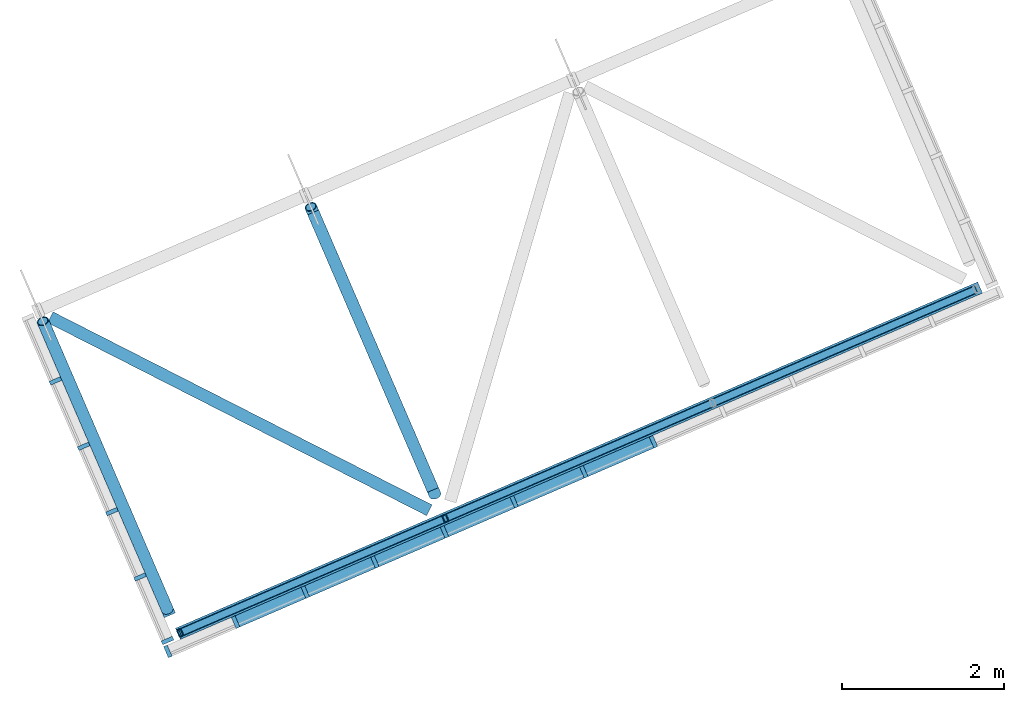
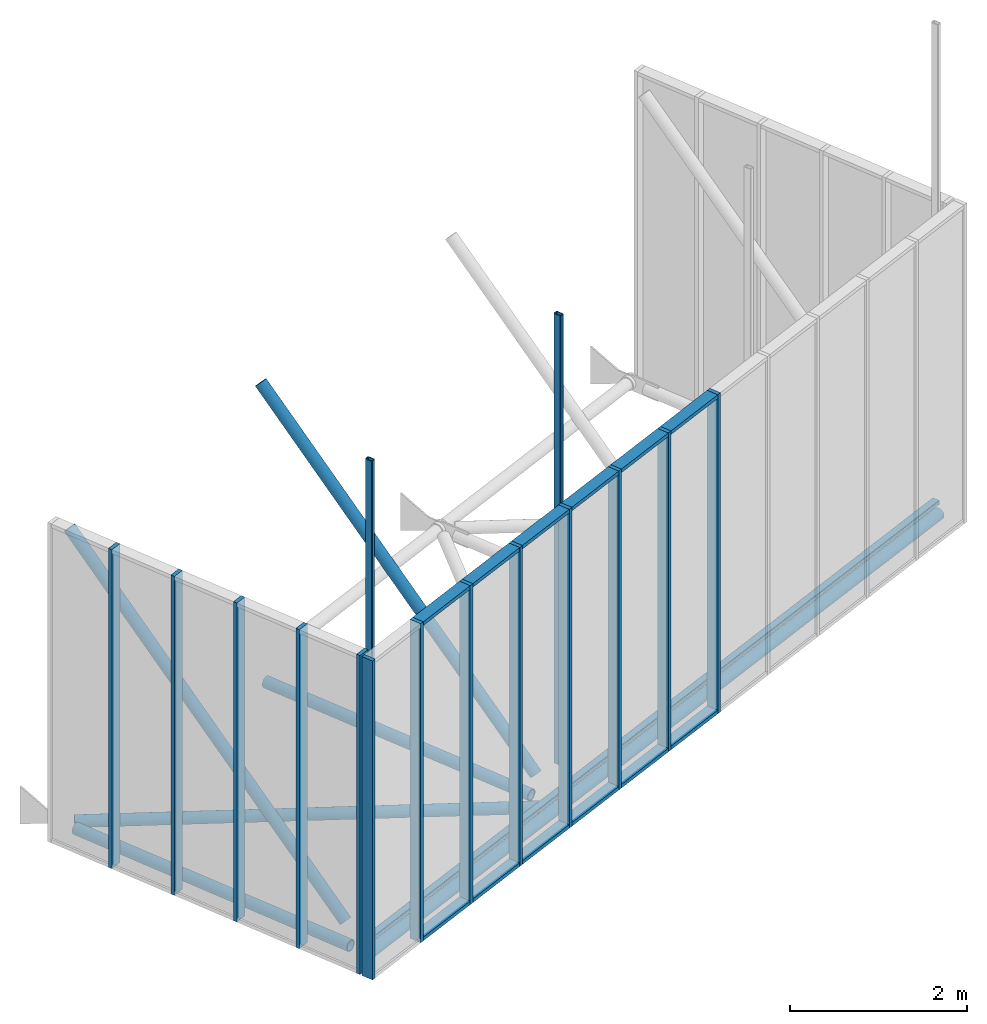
# One storey, part 1 of 5: 29 members, 5 beams, 2 elements without a shape of their own.
"""IFC4 building model written with IfcOpenShell, lengths in metres."""

from ifc_helpers import new_model, entity, si_unit, converted_unit, derived_unit, direction, frame, origin, place, context, subcontext, project, spatial, line, arc, indexed_curve, outline, extrude, source, transform, mapped, material, type_object, type_shapes, element, aggregate, save


model = new_model("IFC4")

# Units and contexts
model_context = context("Model", 3, precision=1e-05, world=origin(), true_north=direction((6.12323399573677e-17, 1.0)))
body_context = subcontext(model_context, "Body", "Model", "MODEL_VIEW")
ifc_project = project(units=[si_unit("LENGTHUNIT", "METRE"), si_unit("AREAUNIT", "SQUARE_METRE"), si_unit("VOLUMEUNIT", "CUBIC_METRE"), converted_unit("PLANEANGLEUNIT", "DEGREE", entity("IfcPlaneAngleMeasure", 0.0174532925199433), si_unit("PLANEANGLEUNIT", "RADIAN"), dimensions=[0, 0, 0, 0, 0, 0, 0]), si_unit("MASSUNIT", "GRAM", prefix="KILO"), derived_unit("MOMENTOFINERTIAUNIT", [(si_unit("LENGTHUNIT", "METRE"), 4)]), derived_unit("LINEARFORCEUNIT", [(si_unit("MASSUNIT", "GRAM", prefix="KILO"), 1), (si_unit("TIMEUNIT", "SECOND"), -2)]), derived_unit("THERMALTRANSMITTANCEUNIT", [(si_unit("MASSUNIT", "GRAM", prefix="KILO"), 1), (si_unit("THERMODYNAMICTEMPERATUREUNIT", "KELVIN"), -1), (si_unit("TIMEUNIT", "SECOND"), -3)]), derived_unit("USERDEFINED", [(si_unit("MASSUNIT", "GRAM", prefix="KILO"), 1), (si_unit("TIMEUNIT", "SECOND"), -2), (si_unit("THERMODYNAMICTEMPERATUREUNIT", "KELVIN"), -1)]), derived_unit("THERMALRESISTANCEUNIT", [(si_unit("MASSUNIT", "GRAM", prefix="KILO"), -1), (si_unit("TIMEUNIT", "SECOND"), 3), (si_unit("THERMODYNAMICTEMPERATUREUNIT", "KELVIN"), 1)])], contexts=[model_context])

# Site, building, storey
site_placement = place(None, origin())
site = spatial("IfcSite", under=ifc_project, at=site_placement, Name="Default", CompositionType="ELEMENT")
building_placement = place(site_placement, frame((4.92348780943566, -84.5603392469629, 320.975), z_axis=(0.0, 0.0, 1.0), x_axis=(-0.396377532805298, 0.918087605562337, 0.0)))
building = spatial("IfcBuilding", under=site, at=building_placement, CompositionType="ELEMENT")
storey_placement = place(building_placement, origin())
storey = spatial("IfcBuildingStorey", under=building, at=storey_placement, Name="Level 1", CompositionType="ELEMENT", Elevation=0.0)

# Beams
ifc_material_1 = material(Name="Acero, 45-345", Category="Metal")
beam_type_1 = type_object("IfcBeamType", Name="M_HSS-Tubo estructural redondo:HSS190.5X12.7", PredefinedType="BEAM", material=ifc_material_1)
shared_shape_1 = source(origin(), body_context, "Body", "SweptSolid", [
    extrude(outline(indexed_curve([(-0.0750000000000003, 1.20590175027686e-16), (0.0, -0.0750000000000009), (0.0750000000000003, -1.20590175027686e-16), (0.0, 0.0750000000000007)], segments=[arc(1, 2, 3), arc(3, 4, 1)], self_intersect=False), holes=[indexed_curve([(0.0632000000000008, -4.02405891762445e-16), (1.08286712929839e-15, -0.0632000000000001), (-0.0631999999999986, 4.99319430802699e-16), (2.16573425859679e-15, 0.0631999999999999)], segments=[arc(1, 2, 3), arc(3, 4, 1)], self_intersect=False)]), frame((-1.82700463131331, 5.71117704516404, 0.0), z_axis=(1.0, 0.0, 0.0), x_axis=(0.0, -1.0, 0.0)), (0.0, 0.0, 1.0), 3.8701652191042),
])
type_shapes(beam_type_1, [shared_shape_1])
beam_1_placement = place(storey_placement, origin())
element("IfcBeam", 1, at=beam_1_placement, inside=storey, type_object=beam_type_1, Name="M_HSS-Tubo estructural redondo:HSS190.5X12.7", ObjectType="M_HSS-Tubo estructural redondo:HSS190.5X12.7", PredefinedType="BEAM", context=body_context, shape_type="MappedRepresentation", body=[
    mapped(shared_shape_1, transform((0.0, 0.0, 0.0), scale=1.0)),
])
beam_type_2 = type_object("IfcBeamType", Name="M_HSS-Tubo estructural redondo:HSS190.5X12.7", PredefinedType="BEAM", material=ifc_material_1)
shared_shape_2 = source(origin(), body_context, "Body", "SweptSolid", [
    extrude(outline(indexed_curve([(-0.0750000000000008, 1.20590175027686e-16), (-2.70716782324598e-16, -0.0750000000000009), (0.0750000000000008, -1.20590175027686e-16), (0.0, 0.0750000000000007)], segments=[arc(1, 2, 3), arc(3, 4, 1)], self_intersect=False), holes=[indexed_curve([(0.0632, -4.02405891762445e-16), (0.0, -0.0632000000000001), (-0.0632000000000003, 4.99319430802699e-16), (5.41433564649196e-16, 0.0631999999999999)], segments=[arc(1, 2, 3), arc(3, 4, 1)], self_intersect=False)]), frame((-2.07683941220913, -5.08882295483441, 0.0), z_axis=(0.0, 1.0, 0.0), x_axis=(1.0, 0.0, 0.0)), (0.0, 0.0, 1.0), 10.8000596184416),
])
type_shapes(beam_type_2, [shared_shape_2])
beam_2_placement = place(storey_placement, origin())
element("IfcBeam", 2, at=beam_2_placement, inside=storey, type_object=beam_type_2, Name="M_HSS-Tubo estructural redondo:HSS190.5X12.7", ObjectType="M_HSS-Tubo estructural redondo:HSS190.5X12.7", PredefinedType="BEAM", context=body_context, shape_type="MappedRepresentation", body=[
    mapped(shared_shape_2, transform((0.0, 0.0, 0.0), scale=1.0)),
])
beam_type_3 = type_object("IfcBeamType", Name="M_HSS-Tubo estructural redondo:HSS190.5X12.7", PredefinedType="BEAM", material=ifc_material_1)
shared_shape_3 = source(origin(), body_context, "Body", "SweptSolid", [
    extrude(outline(indexed_curve([(-3.58329145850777e-16, -0.0750000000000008), (0.0750000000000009, -4.16992503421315e-16), (3.58329145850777e-16, 0.0750000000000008), (-0.0750000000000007, 3.10001975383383e-16)], segments=[arc(1, 2, 3), arc(3, 4, 1)], self_intersect=False), holes=[indexed_curve([(-8.85224749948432e-16, 0.0632), (0.0632000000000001, 8.91163908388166e-16), (1.04133678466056e-16, -0.0632), (-0.0631999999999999, -2.38953552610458e-16)], segments=[arc(1, 2, 3), arc(3, 4, 1)], self_intersect=False)]), frame((-2.65291717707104, 0.0, 0.0), z_axis=(1.0, 0.0, 0.0), x_axis=(0.0, 0.0, -1.0)), (0.0, 0.0, 1.0), 5.25744912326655),
])
type_shapes(beam_type_3, [shared_shape_3])
beam_3_placement = place(storey_placement, frame((0.0981605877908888, 3.91428902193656, 0.0), z_axis=(0.0, 0.0, 1.0), x_axis=(-0.769853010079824, -0.638221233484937, 0.0)))
element("IfcBeam", 3, at=beam_3_placement, inside=storey, type_object=beam_type_3, Name="M_HSS-Tubo estructural redondo:HSS190.5X12.7", ObjectType="M_HSS-Tubo estructural redondo:HSS190.5X12.7", PredefinedType="BEAM", context=body_context, shape_type="MappedRepresentation", body=[
    mapped(shared_shape_3, transform((0.0, 0.0, 0.0), scale=1.0)),
])
beam_type_4 = type_object("IfcBeamType", Name="M_HSS-Tubo estructural redondo:HSS190.5X12.7", PredefinedType="BEAM", material=ifc_material_1)
shared_shape_4 = source(origin(), body_context, "Body", "SweptSolid", [
    extrude(outline(indexed_curve([(-0.0750000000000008, 1.20590175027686e-16), (-2.70716782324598e-16, -0.0750000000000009), (0.0750000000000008, -1.20590175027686e-16), (0.0, 0.0750000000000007)], segments=[arc(1, 2, 3), arc(3, 4, 1)], self_intersect=False), holes=[indexed_curve([(0.0632, -4.02405891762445e-16), (0.0, -0.0632000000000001), (-0.0632000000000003, 4.99319430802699e-16), (5.41433564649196e-16, 0.0631999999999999)], segments=[arc(1, 2, 3), arc(3, 4, 1)], self_intersect=False)]), frame((-1.69402193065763, 2.11117704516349, 0.0), z_axis=(1.0, 0.0, 0.0), x_axis=(0.0, -1.0, 0.0)), (0.0, 0.0, 1.0), 3.73718251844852),
])
type_shapes(beam_type_4, [shared_shape_4])
beam_4_placement = place(storey_placement, origin())
element("IfcBeam", 4, at=beam_4_placement, inside=storey, type_object=beam_type_4, Name="M_HSS-Tubo estructural redondo:HSS190.5X12.7", ObjectType="M_HSS-Tubo estructural redondo:HSS190.5X12.7", PredefinedType="BEAM", context=body_context, shape_type="MappedRepresentation", body=[
    mapped(shared_shape_4, transform((0.0, 0.0, 0.0), scale=1.0)),
])

# Members
member_type_1 = type_object("IfcMemberType", Name="M_HSS-Tubo estructural redondo:HSS190.5X12.7", PredefinedType="BRACE", material=ifc_material_1)
shared_shape_5 = source(origin(), body_context, "Body", "SweptSolid", [
    extrude(outline(indexed_curve([(-0.0750000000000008, 1.20590175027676e-16), (-3.45786696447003e-16, -0.0750000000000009), (0.0750000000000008, -1.20590175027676e-16), (1.22223330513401e-16, 0.0750000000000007)], segments=[arc(1, 2, 3), arc(3, 4, 1)], self_intersect=False), holes=[indexed_curve([(0.0632, 1.07782022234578e-15), (1.13989196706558e-15, -0.0632000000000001), (-0.0632, -2.96728571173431e-16), (-4.59615173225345e-16, 0.0631999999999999)], segments=[arc(1, 2, 3), arc(3, 4, 1)], self_intersect=False)]), frame((-2.48607915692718, 0.0, 0.0), z_axis=(1.0, 0.0, 0.0), x_axis=(0.0, 1.0, 0.0)), (0.0, 0.0, 1.0), 5.41876309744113),
])
type_shapes(member_type_1, [shared_shape_5])
member_1_placement = place(storey_placement, frame((0.0209177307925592, 2.11117704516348, 2.0494023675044), z_axis=(-0.69881460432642, 0.0, 0.715302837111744), x_axis=(0.715302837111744, 0.0, 0.69881460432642)))
element("IfcMember", 5, at=member_1_placement, inside=storey, type_object=member_type_1, Name="M_HSS-Tubo estructural redondo:HSS190.5X12.7", ObjectType="M_HSS-Tubo estructural redondo:HSS190.5X12.7", PredefinedType="BRACE", context=body_context, shape_type="MappedRepresentation", body=[
    mapped(shared_shape_5, transform((0.0, 0.0, 0.0), scale=1.0)),
])
member_type_2 = type_object("IfcMemberType", Name="M_HSS-Tubo estructural redondo:HSS190.5X12.7", PredefinedType="BRACE", material=ifc_material_1)
shared_shape_6 = source(origin(), body_context, "Body", "SweptSolid", [
    extrude(outline(indexed_curve([(-0.0750000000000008, 1.20590175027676e-16), (-3.45786696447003e-16, -0.0750000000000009), (0.0750000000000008, -1.20590175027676e-16), (1.22223330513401e-16, 0.0750000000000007)], segments=[arc(1, 2, 3), arc(3, 4, 1)], self_intersect=False), holes=[indexed_curve([(0.0632, 1.07782022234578e-15), (1.13989196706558e-15, -0.0632000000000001), (-0.0632, -2.96728571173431e-16), (-4.59615173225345e-16, 0.0631999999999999)], segments=[arc(1, 2, 3), arc(3, 4, 1)], self_intersect=False)]), frame((-2.49744570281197, 0.0, 0.0), z_axis=(1.0, 0.0, 0.0), x_axis=(0.0, 1.0, 0.0)), (0.0, 0.0, 1.0), 5.43744570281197),
])
type_shapes(member_type_2, [shared_shape_6])
member_2_placement = place(storey_placement, frame((0.0318183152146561, 5.71117704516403, 2.05639691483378), z_axis=(-0.699454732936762, 0.0, 0.714676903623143), x_axis=(0.714676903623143, 0.0, 0.699454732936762)))
element("IfcMember", 6, at=member_2_placement, inside=storey, type_object=member_type_2, Name="M_HSS-Tubo estructural redondo:HSS190.5X12.7", ObjectType="M_HSS-Tubo estructural redondo:HSS190.5X12.7", PredefinedType="BRACE", context=body_context, shape_type="MappedRepresentation", body=[
    mapped(shared_shape_6, transform((0.0, 0.0, 0.0), scale=1.0)),
])
member_type_3 = type_object("IfcMemberType", Name="M_HSS Cuadrado:10x6", PredefinedType="BRACE", material=ifc_material_1)
shared_shape_7 = source(origin(), body_context, "Body", "SweptSolid", [
    extrude(outline(indexed_curve([(-0.017, -0.0500000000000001), (0.0169999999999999, -0.0500000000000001), (0.026192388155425, -0.0461923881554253), (0.03, -0.0370000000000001), (0.03, 0.0370000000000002), (0.026192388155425, 0.0461923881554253), (0.017, 0.0500000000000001), (-0.017, 0.0500000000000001), (-0.0261923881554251, 0.0461923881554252), (-0.03, 0.0370000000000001), (-0.03, -0.0370000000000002), (-0.026192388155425, -0.0461923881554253)], segments=[line(1, 2), arc(2, 3, 4), line(4, 5), arc(5, 6, 7), line(7, 8), arc(8, 9, 10), line(10, 11), arc(11, 12, 1)], self_intersect=False), holes=[indexed_curve([(-0.0204700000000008, 0.0369999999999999), (-0.0194536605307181, 0.0394536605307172), (-0.0170000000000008, 0.0404699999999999), (0.0169999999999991, 0.0404699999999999), (0.0194536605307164, 0.0394536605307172), (0.0204699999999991, 0.0369999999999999), (0.0204699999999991, -0.0369999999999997), (0.0194536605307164, -0.039453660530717), (0.0169999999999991, -0.0404699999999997), (-0.0170000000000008, -0.0404699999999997), (-0.0194536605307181, -0.039453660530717), (-0.0204700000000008, -0.0369999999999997)], segments=[arc(1, 2, 3), line(3, 4), arc(4, 5, 6), line(6, 7), arc(7, 8, 9), line(9, 10), arc(10, 11, 12), line(12, 1)], self_intersect=False)]), frame((-3.2798, 0.0, 0.0), z_axis=(1.0, 0.0, 0.0), x_axis=(0.0, 0.0, -1.0)), (0.0, 0.0, 1.0), 6.5596),
])
type_shapes(member_type_3, [shared_shape_7])
member_3_placement = place(storey_placement, frame((-2.07683941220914, 5.68123666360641, 3.5224999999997), z_axis=(0.0, 1.0, 0.0), x_axis=(0.0, 0.0, -1.0)))
element("IfcMember", 7, at=member_3_placement, inside=storey, type_object=member_type_3, Name="M_HSS Cuadrado:10x6", ObjectType="M_HSS Cuadrado:10x6", PredefinedType="BRACE", context=body_context, shape_type="MappedRepresentation", body=[
    mapped(shared_shape_7, transform((0.0, 0.0, 0.0), scale=1.0)),
])
member_type_4 = type_object("IfcMemberType", Name="M_HSS Cuadrado:10x6", PredefinedType="BRACE", material=ifc_material_1)
shared_shape_8 = source(origin(), body_context, "Body", "SweptSolid", [
    extrude(outline(indexed_curve([(-0.017, -0.0500000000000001), (0.0169999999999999, -0.0500000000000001), (0.026192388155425, -0.0461923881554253), (0.03, -0.0370000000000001), (0.03, 0.0370000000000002), (0.026192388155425, 0.0461923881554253), (0.017, 0.0500000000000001), (-0.017, 0.0500000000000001), (-0.0261923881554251, 0.0461923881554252), (-0.03, 0.0370000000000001), (-0.03, -0.0370000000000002), (-0.026192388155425, -0.0461923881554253)], segments=[line(1, 2), arc(2, 3, 4), line(4, 5), arc(5, 6, 7), line(7, 8), arc(8, 9, 10), line(10, 11), arc(11, 12, 1)], self_intersect=False), holes=[indexed_curve([(-0.0204700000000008, 0.0369999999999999), (-0.0194536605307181, 0.0394536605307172), (-0.0170000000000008, 0.0404699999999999), (0.0169999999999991, 0.0404699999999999), (0.0194536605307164, 0.0394536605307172), (0.0204699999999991, 0.0369999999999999), (0.0204699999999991, -0.0369999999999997), (0.0194536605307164, -0.039453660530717), (0.0169999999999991, -0.0404699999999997), (-0.0170000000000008, -0.0404699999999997), (-0.0194536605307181, -0.039453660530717), (-0.0204700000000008, -0.0369999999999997)], segments=[arc(1, 2, 3), line(3, 4), arc(4, 5, 6), line(6, 7), arc(7, 8, 9), line(9, 10), arc(10, 11, 12), line(12, 1)], self_intersect=False)]), frame((-3.0798, 0.0, 0.0), z_axis=(1.0, 0.0, 0.0), x_axis=(0.0, 0.0, -1.0)), (0.0, 0.0, 1.0), 6.2023),
])
type_shapes(member_type_4, [shared_shape_8])
member_4_placement = place(storey_placement, frame((-2.07683941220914, 2.1111770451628, 3.72249999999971), z_axis=(0.0, 1.0, 0.0), x_axis=(0.0, 0.0, -1.0)))
element("IfcMember", 8, at=member_4_placement, inside=storey, type_object=member_type_4, Name="M_HSS Cuadrado:10x6", ObjectType="M_HSS Cuadrado:10x6", PredefinedType="BRACE", context=body_context, shape_type="MappedRepresentation", body=[
    mapped(shared_shape_8, transform((0.0, 0.0, 0.0), scale=1.0)),
])

# Beam
beam_type_5 = type_object("IfcBeamType", Name="M_HSS Cuadrado:10x6", PredefinedType="BEAM", material=ifc_material_1)
shared_shape_9 = source(origin(), body_context, "Body", "SweptSolid", [
    extrude(outline(indexed_curve([(-0.017, -0.0500000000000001), (0.0169999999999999, -0.0500000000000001), (0.026192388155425, -0.0461923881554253), (0.03, -0.0370000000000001), (0.03, 0.0370000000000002), (0.026192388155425, 0.0461923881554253), (0.017, 0.0500000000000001), (-0.017, 0.0500000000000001), (-0.0261923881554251, 0.0461923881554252), (-0.03, 0.0370000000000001), (-0.03, -0.0370000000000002), (-0.026192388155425, -0.0461923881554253)], segments=[line(1, 2), arc(2, 3, 4), line(4, 5), arc(5, 6, 7), line(7, 8), arc(8, 9, 10), line(10, 11), arc(11, 12, 1)], self_intersect=False), holes=[indexed_curve([(-0.0204700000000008, 0.0369999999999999), (-0.0194536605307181, 0.0394536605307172), (-0.0170000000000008, 0.0404699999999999), (0.0169999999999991, 0.0404699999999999), (0.0194536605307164, 0.0394536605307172), (0.0204699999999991, 0.0369999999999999), (0.0204699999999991, -0.0369999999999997), (0.0194536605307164, -0.039453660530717), (0.0169999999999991, -0.0404699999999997), (-0.0170000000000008, -0.0404699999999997), (-0.0194536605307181, -0.039453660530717), (-0.0204700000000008, -0.0369999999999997)], segments=[arc(1, 2, 3), line(3, 4), arc(4, 5, 6), line(6, 7), arc(7, 8, 9), line(9, 10), arc(10, 11, 12), line(12, 1)], self_intersect=False)]), frame((-5.3575, 0.0, 0.0), z_axis=(1.0, 0.0, 0.0), x_axis=(0.0, 0.0, -1.0)), (0.0, 0.0, 1.0), 10.715),
])
type_shapes(beam_type_5, [shared_shape_9])
beam_5_placement = place(storey_placement, frame((-2.07683941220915, 0.323736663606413, 0.199999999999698), z_axis=(0.0, 0.0, 1.0), x_axis=(0.0, 1.0, 0.0)))
element("IfcBeam", 9, at=beam_5_placement, inside=storey, type_object=beam_type_5, Name="M_HSS Cuadrado:10x6", ObjectType="M_HSS Cuadrado:10x6", PredefinedType="BEAM", context=body_context, shape_type="MappedRepresentation", body=[
    mapped(shared_shape_9, transform((0.0, 0.0, 0.0), scale=1.0)),
])

# Curtain wall, members
curtain_wall_type = type_object("IfcCurtainWallType", Name="Curtain Wall:MC1", PredefinedType="NOTDEFINED")
curtain_wall_1_placement = place(storey_placement, origin())
curtain_wall_1 = element("IfcCurtainWall", 10, at=curtain_wall_1_placement, inside=storey, type_object=curtain_wall_type, Name="Curtain Wall:MC1", ObjectType="Curtain Wall:MC1", PredefinedType="NOTDEFINED")
ifc_material_2 = material(Name="Aluminum", Category="Metal")
member_type_5 = type_object("IfcMemberType", Name="Rectangular Mullion:50mm x 150mm", PredefinedType="MULLION", material=ifc_material_2)
shared_shape_10 = source(origin(), body_context, "Body", "SweptSolid", [
    extrude(outline(indexed_curve([(-0.025, -0.075), (0.025, -0.075), (0.025, 0.075), (-0.025, 0.075), (-0.025, -0.075)], self_intersect=False)), frame((-0.025, 0.0, -4.4), z_axis=(0.0, 0.0, 1.0), x_axis=(-1.0, 0.0, 0.0)), (0.0, 0.0, 1.0), 4.4),
])
type_shapes(member_type_5, [shared_shape_10])
member_5_placement = place(curtain_wall_1_placement, frame((-2.12683941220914, 5.86117704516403, 4.25), z_axis=(0.0, 0.0, 1.0), x_axis=(-1.0, 0.0, 0.0)))
member_5 = element("IfcMember", 11, at=member_5_placement, type_object=member_type_5, material=ifc_material_2, Name="Rectangular Mullion:50mm x 150mm", ObjectType="Rectangular Mullion:50mm x 150mm", PredefinedType="MULLION", context=body_context, shape_type="MappedRepresentation", body=[
    mapped(shared_shape_10, transform((0.0, 0.0, 0.0), scale=1.0)),
])
member_type_6 = type_object("IfcMemberType", Name="Rectangular Mullion:50mm x 150mm", PredefinedType="MULLION", material=ifc_material_2)
shared_shape_11 = source(origin(), body_context, "Body", "SweptSolid", [
    extrude(outline(indexed_curve([(-0.025, -0.075), (0.025, -0.075), (0.025, 0.075), (-0.025, 0.075), (-0.025, -0.075)], self_intersect=False)), frame((0.0, 0.0, -4.4), z_axis=(0.0, 0.0, 1.0), x_axis=(-1.0, 0.0, 0.0)), (0.0, 0.0, 1.0), 4.4),
])
type_shapes(member_type_6, [shared_shape_11])
member_6_placement = place(curtain_wall_1_placement, frame((-1.24683941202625, 5.86117704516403, -0.15), z_axis=(0.0, 0.0, -1.0), x_axis=(1.0, 0.0, 0.0)))
member_6 = element("IfcMember", 12, at=member_6_placement, type_object=member_type_6, material=ifc_material_2, Name="Rectangular Mullion:50mm x 150mm", ObjectType="Rectangular Mullion:50mm x 150mm", PredefinedType="MULLION", context=body_context, shape_type="MappedRepresentation", body=[
    mapped(shared_shape_11, transform((0.0, 0.0, 0.0), scale=1.0)),
])
member_7_placement = place(curtain_wall_1_placement, frame((-0.366839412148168, 5.86117704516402, -0.15), z_axis=(0.0, 0.0, -1.0), x_axis=(1.0, 0.0, 0.0)))
member_7 = element("IfcMember", 13, at=member_7_placement, type_object=member_type_6, material=ifc_material_2, Name="Rectangular Mullion:50mm x 150mm", ObjectType="Rectangular Mullion:50mm x 150mm", PredefinedType="MULLION", context=body_context, shape_type="MappedRepresentation", body=[
    mapped(shared_shape_11, transform((0.0, 0.0, 0.0), scale=1.0)),
])
member_8_placement = place(curtain_wall_1_placement, frame((0.513160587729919, 5.86117704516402, -0.15), z_axis=(0.0, 0.0, -1.0), x_axis=(1.0, 0.0, 0.0)))
member_8 = element("IfcMember", 14, at=member_8_placement, type_object=member_type_6, material=ifc_material_2, Name="Rectangular Mullion:50mm x 150mm", ObjectType="Rectangular Mullion:50mm x 150mm", PredefinedType="MULLION", context=body_context, shape_type="MappedRepresentation", body=[
    mapped(shared_shape_11, transform((0.0, 0.0, 0.0), scale=1.0)),
])
member_9_placement = place(curtain_wall_1_placement, frame((1.39316058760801, 5.86117704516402, -0.15), z_axis=(0.0, 0.0, -1.0), x_axis=(1.0, 0.0, 0.0)))
member_9 = element("IfcMember", 15, at=member_9_placement, type_object=member_type_6, material=ifc_material_2, Name="Rectangular Mullion:50mm x 150mm", ObjectType="Rectangular Mullion:50mm x 150mm", PredefinedType="MULLION", context=body_context, shape_type="MappedRepresentation", body=[
    mapped(shared_shape_11, transform((0.0, 0.0, 0.0), scale=1.0)),
])
aggregate(curtain_wall_1, [member_5, member_6, member_7, member_8, member_9])

curtain_wall_2_placement = place(storey_placement, origin())
curtain_wall_2 = element("IfcCurtainWall", 16, at=curtain_wall_2_placement, inside=storey, type_object=curtain_wall_type, Name="Curtain Wall:MC1", ObjectType="Curtain Wall:MC1", PredefinedType="NOTDEFINED")
member_type_7 = type_object("IfcMemberType", Name="Rectangular Mullion:50mm x 150mm", PredefinedType="MULLION", material=ifc_material_2)
shared_shape_12 = source(origin(), body_context, "Body", "SweptSolid", [
    extrude(outline(indexed_curve([(-0.025, -0.075), (0.025, -0.075), (0.025, 0.075), (-0.025, 0.075), (-0.025, -0.075)], self_intersect=False)), frame((-0.025, 0.0, -4.4), z_axis=(0.0, 0.0, 1.0), x_axis=(-1.0, 0.0, 0.0)), (0.0, 0.0, 1.0), 4.4),
])
type_shapes(member_type_7, [shared_shape_12])
member_10_placement = place(curtain_wall_2_placement, frame((-2.22683941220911, 5.93617704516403, 4.25), z_axis=(0.0, 0.0, 1.0), x_axis=(0.0, 1.0, 0.0)))
member_10 = element("IfcMember", 17, at=member_10_placement, type_object=member_type_7, material=ifc_material_2, Name="Rectangular Mullion:50mm x 150mm", ObjectType="Rectangular Mullion:50mm x 150mm", PredefinedType="MULLION", context=body_context, shape_type="MappedRepresentation", body=[
    mapped(shared_shape_12, transform((0.0, 0.0, 0.0), scale=1.0)),
])
member_type_8 = type_object("IfcMemberType", Name="Rectangular Mullion:50mm x 150mm", PredefinedType="MULLION", material=ifc_material_2)
shared_shape_13 = source(origin(), body_context, "Body", "SweptSolid", [
    extrude(outline(indexed_curve([(-0.025, -0.075), (0.025, -0.075), (0.025, 0.075), (-0.025, 0.075), (-0.025, -0.075)], self_intersect=False)), frame((-0.025, 0.0, -0.887499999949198), z_axis=(0.0, 0.0, 1.0), x_axis=(-1.0, 0.0, 0.0)), (0.0, 0.0, 1.0), 0.887499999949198),
])
type_shapes(member_type_8, [shared_shape_13])
member_11_placement = place(curtain_wall_2_placement, frame((-2.22683941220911, 4.08617704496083, 4.25), z_axis=(0.0, -1.0, 0.0), x_axis=(0.0, 0.0, 1.0)))
member_11 = element("IfcMember", 18, at=member_11_placement, type_object=member_type_8, material=ifc_material_2, Name="Rectangular Mullion:50mm x 150mm", ObjectType="Rectangular Mullion:50mm x 150mm", PredefinedType="MULLION", context=body_context, shape_type="MappedRepresentation", body=[
    mapped(shared_shape_13, transform((0.0, 0.0, 0.0), scale=1.0)),
])
member_12_placement = place(curtain_wall_2_placement, frame((-2.22683941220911, 3.14867704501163, 4.25), z_axis=(0.0, -1.0, 0.0), x_axis=(0.0, 0.0, 1.0)))
member_12 = element("IfcMember", 19, at=member_12_placement, type_object=member_type_8, material=ifc_material_2, Name="Rectangular Mullion:50mm x 150mm", ObjectType="Rectangular Mullion:50mm x 150mm", PredefinedType="MULLION", context=body_context, shape_type="MappedRepresentation", body=[
    mapped(shared_shape_13, transform((0.0, 0.0, 0.0), scale=1.0)),
])
member_13_placement = place(curtain_wall_2_placement, frame((-2.22683941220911, 2.21117704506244, 4.25), z_axis=(0.0, -1.0, 0.0), x_axis=(0.0, 0.0, 1.0)))
member_13 = element("IfcMember", 20, at=member_13_placement, type_object=member_type_8, material=ifc_material_2, Name="Rectangular Mullion:50mm x 150mm", ObjectType="Rectangular Mullion:50mm x 150mm", PredefinedType="MULLION", context=body_context, shape_type="MappedRepresentation", body=[
    mapped(shared_shape_13, transform((0.0, 0.0, 0.0), scale=1.0)),
])
member_14_placement = place(curtain_wall_2_placement, frame((-2.22683941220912, 1.27367704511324, 4.25), z_axis=(0.0, -1.0, 0.0), x_axis=(0.0, 0.0, 1.0)))
member_14 = element("IfcMember", 21, at=member_14_placement, type_object=member_type_8, material=ifc_material_2, Name="Rectangular Mullion:50mm x 150mm", ObjectType="Rectangular Mullion:50mm x 150mm", PredefinedType="MULLION", context=body_context, shape_type="MappedRepresentation", body=[
    mapped(shared_shape_13, transform((0.0, 0.0, 0.0), scale=1.0)),
])
member_15_placement = place(curtain_wall_2_placement, frame((-2.22683941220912, 0.33617704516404, 4.25), z_axis=(0.0, -1.0, 0.0), x_axis=(0.0, 0.0, 1.0)))
member_15 = element("IfcMember", 22, at=member_15_placement, type_object=member_type_8, material=ifc_material_2, Name="Rectangular Mullion:50mm x 150mm", ObjectType="Rectangular Mullion:50mm x 150mm", PredefinedType="MULLION", context=body_context, shape_type="MappedRepresentation", body=[
    mapped(shared_shape_13, transform((0.0, 0.0, 0.0), scale=1.0)),
])
member_16_placement = place(curtain_wall_2_placement, frame((-2.22683941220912, -0.601322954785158, 4.25), z_axis=(0.0, -1.0, 0.0), x_axis=(0.0, 0.0, 1.0)))
member_16 = element("IfcMember", 23, at=member_16_placement, type_object=member_type_8, material=ifc_material_2, Name="Rectangular Mullion:50mm x 150mm", ObjectType="Rectangular Mullion:50mm x 150mm", PredefinedType="MULLION", context=body_context, shape_type="MappedRepresentation", body=[
    mapped(shared_shape_13, transform((0.0, 0.0, 0.0), scale=1.0)),
])
member_type_9 = type_object("IfcMemberType", Name="Rectangular Mullion:50mm x 150mm", PredefinedType="MULLION", material=ifc_material_2)
shared_shape_14 = source(origin(), body_context, "Body", "SweptSolid", [
    extrude(outline(indexed_curve([(-0.025, -0.075), (0.025, -0.075), (0.025, 0.075), (-0.025, 0.075), (-0.025, -0.075)], self_intersect=False)), frame((-0.025, 0.0, -0.887499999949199), z_axis=(0.0, 0.0, 1.0), x_axis=(-1.0, 0.0, 0.0)), (0.0, 0.0, 1.0), 0.887499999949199),
])
type_shapes(member_type_9, [shared_shape_14])
member_17_placement = place(curtain_wall_2_placement, frame((-2.22683941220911, 4.97367704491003, -0.15), z_axis=(0.0, 1.0, 0.0), x_axis=(0.0, 0.0, -1.0)))
member_17 = element("IfcMember", 24, at=member_17_placement, type_object=member_type_9, material=ifc_material_2, Name="Rectangular Mullion:50mm x 150mm", ObjectType="Rectangular Mullion:50mm x 150mm", PredefinedType="MULLION", context=body_context, shape_type="MappedRepresentation", body=[
    mapped(shared_shape_14, transform((0.0, 0.0, 0.0), scale=1.0)),
])
member_18_placement = place(curtain_wall_2_placement, frame((-2.22683941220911, 4.03617704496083, -0.15), z_axis=(0.0, 1.0, 0.0), x_axis=(0.0, 0.0, -1.0)))
member_18 = element("IfcMember", 25, at=member_18_placement, type_object=member_type_9, material=ifc_material_2, Name="Rectangular Mullion:50mm x 150mm", ObjectType="Rectangular Mullion:50mm x 150mm", PredefinedType="MULLION", context=body_context, shape_type="MappedRepresentation", body=[
    mapped(shared_shape_14, transform((0.0, 0.0, 0.0), scale=1.0)),
])
member_19_placement = place(curtain_wall_2_placement, frame((-2.22683941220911, 3.09867704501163, -0.15), z_axis=(0.0, 1.0, 0.0), x_axis=(0.0, 0.0, -1.0)))
member_19 = element("IfcMember", 26, at=member_19_placement, type_object=member_type_9, material=ifc_material_2, Name="Rectangular Mullion:50mm x 150mm", ObjectType="Rectangular Mullion:50mm x 150mm", PredefinedType="MULLION", context=body_context, shape_type="MappedRepresentation", body=[
    mapped(shared_shape_14, transform((0.0, 0.0, 0.0), scale=1.0)),
])
member_20_placement = place(curtain_wall_2_placement, frame((-2.22683941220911, 2.16117704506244, -0.15), z_axis=(0.0, 1.0, 0.0), x_axis=(0.0, 0.0, -1.0)))
member_20 = element("IfcMember", 27, at=member_20_placement, type_object=member_type_9, material=ifc_material_2, Name="Rectangular Mullion:50mm x 150mm", ObjectType="Rectangular Mullion:50mm x 150mm", PredefinedType="MULLION", context=body_context, shape_type="MappedRepresentation", body=[
    mapped(shared_shape_14, transform((0.0, 0.0, 0.0), scale=1.0)),
])
member_21_placement = place(curtain_wall_2_placement, frame((-2.22683941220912, 1.22367704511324, -0.15), z_axis=(0.0, 1.0, 0.0), x_axis=(0.0, 0.0, -1.0)))
member_21 = element("IfcMember", 28, at=member_21_placement, type_object=member_type_9, material=ifc_material_2, Name="Rectangular Mullion:50mm x 150mm", ObjectType="Rectangular Mullion:50mm x 150mm", PredefinedType="MULLION", context=body_context, shape_type="MappedRepresentation", body=[
    mapped(shared_shape_14, transform((0.0, 0.0, 0.0), scale=1.0)),
])
member_22_placement = place(curtain_wall_2_placement, frame((-2.22683941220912, 0.28617704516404, -0.15), z_axis=(0.0, 1.0, 0.0), x_axis=(0.0, 0.0, -1.0)))
member_22 = element("IfcMember", 29, at=member_22_placement, type_object=member_type_9, material=ifc_material_2, Name="Rectangular Mullion:50mm x 150mm", ObjectType="Rectangular Mullion:50mm x 150mm", PredefinedType="MULLION", context=body_context, shape_type="MappedRepresentation", body=[
    mapped(shared_shape_14, transform((0.0, 0.0, 0.0), scale=1.0)),
])
member_type_10 = type_object("IfcMemberType", Name="Rectangular Mullion:50mm x 150mm", PredefinedType="MULLION", material=ifc_material_2)
shared_shape_15 = source(origin(), body_context, "Body", "SweptSolid", [
    extrude(outline(indexed_curve([(-0.025, -0.075), (0.025, -0.075), (0.025, 0.075), (-0.025, 0.075), (-0.025, -0.075)], self_intersect=False)), frame((0.0, 0.0, -4.4), z_axis=(0.0, 0.0, 1.0), x_axis=(-1.0, 0.0, 0.0)), (0.0, 0.0, 1.0), 4.4),
])
type_shapes(member_type_10, [shared_shape_15])
member_23_placement = place(curtain_wall_2_placement, frame((-2.22683941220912, -0.626322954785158, -0.15), z_axis=(0.0, 0.0, -1.0), x_axis=(0.0, -1.0, 0.0)))
member_23 = element("IfcMember", 30, at=member_23_placement, type_object=member_type_10, material=ifc_material_2, Name="Rectangular Mullion:50mm x 150mm", ObjectType="Rectangular Mullion:50mm x 150mm", PredefinedType="MULLION", context=body_context, shape_type="MappedRepresentation", body=[
    mapped(shared_shape_15, transform((0.0, 0.0, 0.0), scale=1.0)),
])
member_24_placement = place(curtain_wall_2_placement, frame((-2.22683941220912, 0.31117704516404, -0.15), z_axis=(0.0, 0.0, -1.0), x_axis=(0.0, -1.0, 0.0)))
member_24 = element("IfcMember", 31, at=member_24_placement, type_object=member_type_10, material=ifc_material_2, Name="Rectangular Mullion:50mm x 150mm", ObjectType="Rectangular Mullion:50mm x 150mm", PredefinedType="MULLION", context=body_context, shape_type="MappedRepresentation", body=[
    mapped(shared_shape_15, transform((0.0, 0.0, 0.0), scale=1.0)),
])
member_25_placement = place(curtain_wall_2_placement, frame((-2.22683941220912, 1.24867704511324, -0.15), z_axis=(0.0, 0.0, -1.0), x_axis=(0.0, -1.0, 0.0)))
member_25 = element("IfcMember", 32, at=member_25_placement, type_object=member_type_10, material=ifc_material_2, Name="Rectangular Mullion:50mm x 150mm", ObjectType="Rectangular Mullion:50mm x 150mm", PredefinedType="MULLION", context=body_context, shape_type="MappedRepresentation", body=[
    mapped(shared_shape_15, transform((0.0, 0.0, 0.0), scale=1.0)),
])
member_26_placement = place(curtain_wall_2_placement, frame((-2.22683941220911, 2.18617704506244, -0.15), z_axis=(0.0, 0.0, -1.0), x_axis=(0.0, -1.0, 0.0)))
member_26 = element("IfcMember", 33, at=member_26_placement, type_object=member_type_10, material=ifc_material_2, Name="Rectangular Mullion:50mm x 150mm", ObjectType="Rectangular Mullion:50mm x 150mm", PredefinedType="MULLION", context=body_context, shape_type="MappedRepresentation", body=[
    mapped(shared_shape_15, transform((0.0, 0.0, 0.0), scale=1.0)),
])
member_27_placement = place(curtain_wall_2_placement, frame((-2.22683941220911, 3.12367704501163, -0.15), z_axis=(0.0, 0.0, -1.0), x_axis=(0.0, -1.0, 0.0)))
member_27 = element("IfcMember", 34, at=member_27_placement, type_object=member_type_10, material=ifc_material_2, Name="Rectangular Mullion:50mm x 150mm", ObjectType="Rectangular Mullion:50mm x 150mm", PredefinedType="MULLION", context=body_context, shape_type="MappedRepresentation", body=[
    mapped(shared_shape_15, transform((0.0, 0.0, 0.0), scale=1.0)),
])
member_28_placement = place(curtain_wall_2_placement, frame((-2.22683941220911, 4.06117704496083, -0.15), z_axis=(0.0, 0.0, -1.0), x_axis=(0.0, -1.0, 0.0)))
member_28 = element("IfcMember", 35, at=member_28_placement, type_object=member_type_10, material=ifc_material_2, Name="Rectangular Mullion:50mm x 150mm", ObjectType="Rectangular Mullion:50mm x 150mm", PredefinedType="MULLION", context=body_context, shape_type="MappedRepresentation", body=[
    mapped(shared_shape_15, transform((0.0, 0.0, 0.0), scale=1.0)),
])
member_29_placement = place(curtain_wall_2_placement, frame((-2.22683941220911, 4.99867704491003, -0.15), z_axis=(0.0, 0.0, -1.0), x_axis=(0.0, -1.0, 0.0)))
member_29 = element("IfcMember", 36, at=member_29_placement, type_object=member_type_10, material=ifc_material_2, Name="Rectangular Mullion:50mm x 150mm", ObjectType="Rectangular Mullion:50mm x 150mm", PredefinedType="MULLION", context=body_context, shape_type="MappedRepresentation", body=[
    mapped(shared_shape_15, transform((0.0, 0.0, 0.0), scale=1.0)),
])
aggregate(curtain_wall_2, [member_10, member_11, member_12, member_13, member_14, member_15, member_16, member_17, member_18, member_19, member_20, member_21, member_22, member_23, member_24, member_25, member_26, member_27, member_28, member_29])

save(model, "model.ifc")
